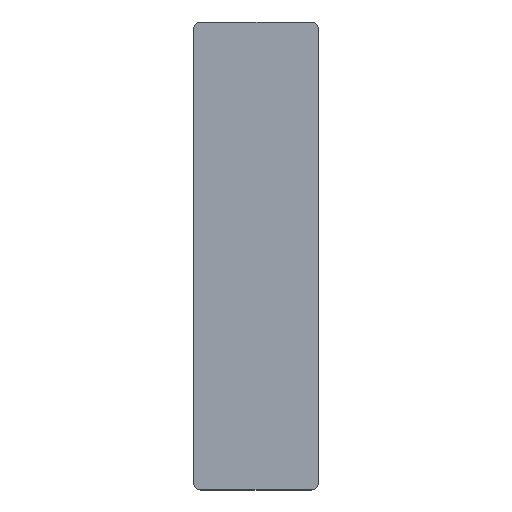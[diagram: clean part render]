
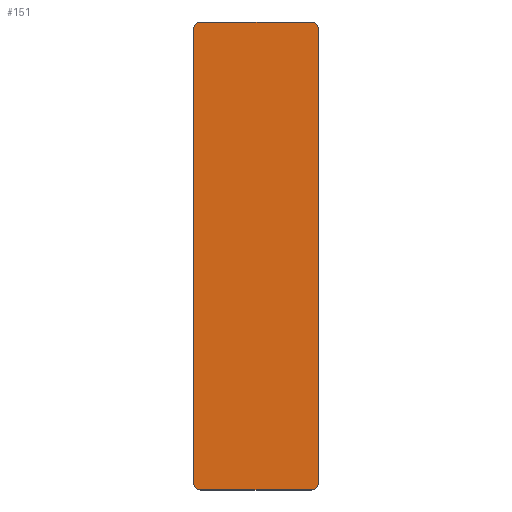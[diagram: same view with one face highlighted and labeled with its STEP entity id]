
A CAD part, top view. The second image highlights one B-rep face of the part: STEP entity #151.
In plain terms, the highlighted planar face has unit normal (0, 0, 1).
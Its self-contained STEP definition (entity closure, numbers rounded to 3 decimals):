
#6 = EDGE_CURVE ( 'NONE', #11, #162, #27, .T. ) ;
#8 = ORIENTED_EDGE ( 'NONE', *, *, #227, .T. ) ;
#9 = CIRCLE ( 'NONE', #361, 0.8 ) ;
#11 = VERTEX_POINT ( 'NONE', #281 ) ;
#20 = DIRECTION ( 'NONE',  ( 0., 0., 1. ) ) ;
#21 = EDGE_CURVE ( 'NONE', #299, #104, #9, .T. ) ;
#27 = LINE ( 'NONE', #223, #86 ) ;
#29 = LINE ( 'NONE', #174, #30 ) ;
#30 = VECTOR ( 'NONE', #175, 1000. ) ;
#33 = CARTESIAN_POINT ( 'NONE',  ( 3.51, 26.45, 0. ) ) ;
#40 = ORIENTED_EDGE ( 'NONE', *, *, #21, .T. ) ;
#48 = CIRCLE ( 'NONE', #193, 0.8 ) ;
#57 = DIRECTION ( 'NONE',  ( -1., 0., 0. ) ) ;
#60 = DIRECTION ( 'NONE',  ( 1., 0., 0. ) ) ;
#61 = CIRCLE ( 'NONE', #163, 0.8 ) ;
#62 = DIRECTION ( 'NONE',  ( 0., 0., 1. ) ) ;
#63 = DIRECTION ( 'NONE',  ( 0., 1., 0. ) ) ;
#64 = AXIS2_PLACEMENT_3D ( 'NONE', #228, #199, #60 ) ;
#65 = CIRCLE ( 'NONE', #178, 0.8 ) ;
#67 = DIRECTION ( 'NONE',  ( 0., 0., 1. ) ) ;
#75 = EDGE_LOOP ( 'NONE', ( #8, #121, #40, #76, #128, #326, #300, #155 ) ) ;
#76 = ORIENTED_EDGE ( 'NONE', *, *, #79, .T. ) ;
#78 = CARTESIAN_POINT ( 'NONE',  ( 16.41, -26.45, 0. ) ) ;
#79 = EDGE_CURVE ( 'NONE', #104, #99, #252, .T. ) ;
#80 = VECTOR ( 'NONE', #340, 1000. ) ;
#86 = VECTOR ( 'NONE', #309, 1000. ) ;
#92 = FACE_OUTER_BOUND ( 'NONE', #75, .T. ) ;
#99 = VERTEX_POINT ( 'NONE', #216 ) ;
#104 = VERTEX_POINT ( 'NONE', #335 ) ;
#113 = CARTESIAN_POINT ( 'NONE',  ( 3.51, -26.45, 0. ) ) ;
#121 = ORIENTED_EDGE ( 'NONE', *, *, #140, .T. ) ;
#128 = ORIENTED_EDGE ( 'NONE', *, *, #221, .T. ) ;
#139 = CARTESIAN_POINT ( 'NONE',  ( 16.41, -27.25, 0. ) ) ;
#140 = EDGE_CURVE ( 'NONE', #364, #299, #254, .T. ) ;
#142 = DIRECTION ( 'NONE',  ( 0., 0., 1. ) ) ;
#144 = DIRECTION ( 'NONE',  ( 1., 0., 0. ) ) ;
#151 = ADVANCED_FACE ( 'NONE', ( #92 ), #201, .T. ) ;
#152 = CARTESIAN_POINT ( 'NONE',  ( 3.51, -27.25, 0. ) ) ;
#155 = ORIENTED_EDGE ( 'NONE', *, *, #233, .T. ) ;
#162 = VERTEX_POINT ( 'NONE', #320 ) ;
#163 = AXIS2_PLACEMENT_3D ( 'NONE', #33, #62, #318 ) ;
#172 = CARTESIAN_POINT ( 'NONE',  ( 17.21, 26.45, 0. ) ) ;
#174 = CARTESIAN_POINT ( 'NONE',  ( 3.51, -27.25, 0. ) ) ;
#175 = DIRECTION ( 'NONE',  ( 1., 0., 0. ) ) ;
#178 = AXIS2_PLACEMENT_3D ( 'NONE', #113, #67, #268 ) ;
#183 = CARTESIAN_POINT ( 'NONE',  ( 17.21, -26.45, 0. ) ) ;
#193 = AXIS2_PLACEMENT_3D ( 'NONE', #78, #142, #144 ) ;
#199 = DIRECTION ( 'NONE',  ( 0., 0., 1. ) ) ;
#200 = CARTESIAN_POINT ( 'NONE',  ( 17.21, 26.45, 0. ) ) ;
#201 = PLANE ( 'NONE',  #64 ) ;
#216 = CARTESIAN_POINT ( 'NONE',  ( 3.51, 27.25, 0. ) ) ;
#221 = EDGE_CURVE ( 'NONE', #99, #11, #61, .T. ) ;
#223 = CARTESIAN_POINT ( 'NONE',  ( 2.71, 26.45, 0. ) ) ;
#227 = EDGE_CURVE ( 'NONE', #292, #364, #48, .T. ) ;
#228 = CARTESIAN_POINT ( 'NONE',  ( 16.41, -26.45, 0. ) ) ;
#233 = EDGE_CURVE ( 'NONE', #360, #292, #29, .T. ) ;
#252 = LINE ( 'NONE', #253, #80 ) ;
#253 = CARTESIAN_POINT ( 'NONE',  ( 3.51, 27.25, 0. ) ) ;
#254 = LINE ( 'NONE', #200, #313 ) ;
#268 = DIRECTION ( 'NONE',  ( 1., 0., 0. ) ) ;
#276 = CARTESIAN_POINT ( 'NONE',  ( 16.41, 26.45, 0. ) ) ;
#281 = CARTESIAN_POINT ( 'NONE',  ( 2.71, 26.45, 0. ) ) ;
#292 = VERTEX_POINT ( 'NONE', #139 ) ;
#299 = VERTEX_POINT ( 'NONE', #172 ) ;
#300 = ORIENTED_EDGE ( 'NONE', *, *, #322, .T. ) ;
#309 = DIRECTION ( 'NONE',  ( 0., -1., 0. ) ) ;
#313 = VECTOR ( 'NONE', #63, 1000. ) ;
#318 = DIRECTION ( 'NONE',  ( 1., 0., 0. ) ) ;
#320 = CARTESIAN_POINT ( 'NONE',  ( 2.71, -26.45, 0. ) ) ;
#322 = EDGE_CURVE ( 'NONE', #162, #360, #65, .T. ) ;
#326 = ORIENTED_EDGE ( 'NONE', *, *, #6, .T. ) ;
#335 = CARTESIAN_POINT ( 'NONE',  ( 16.41, 27.25, 0. ) ) ;
#340 = DIRECTION ( 'NONE',  ( -1., 0., 0. ) ) ;
#360 = VERTEX_POINT ( 'NONE', #152 ) ;
#361 = AXIS2_PLACEMENT_3D ( 'NONE', #276, #20, #57 ) ;
#364 = VERTEX_POINT ( 'NONE', #183 ) ;
